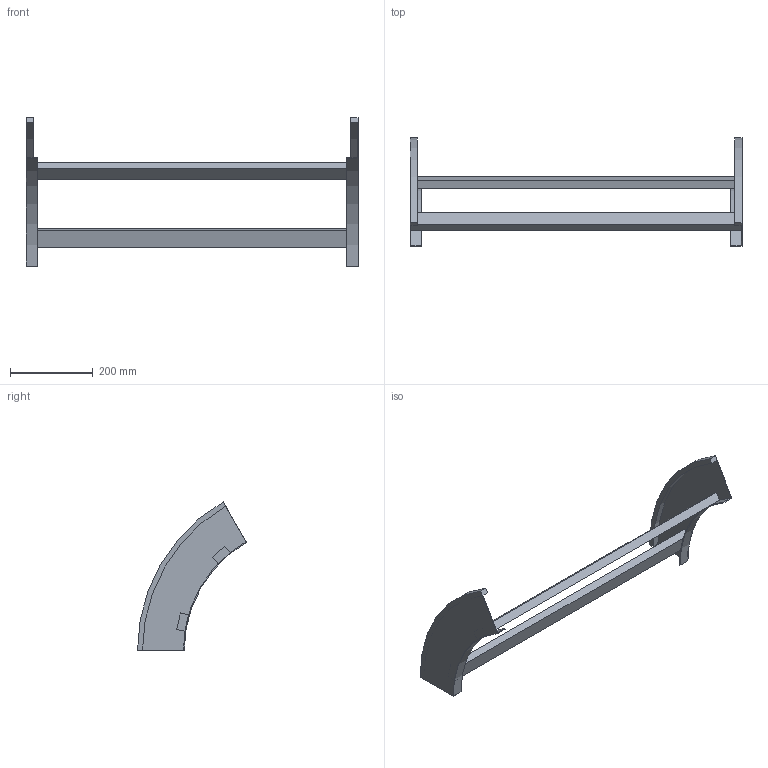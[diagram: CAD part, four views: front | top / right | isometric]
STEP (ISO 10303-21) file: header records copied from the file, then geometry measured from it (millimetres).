
FILE_DESCRIPTION (( 'STEP AP214' ), '1' );
FILE_NAME ('B2_41B3J800.step', '2025-02-21T14:59:08', ( '' ), ( '' ), 'SwSTEP 2.0', 'SolidWorks 2023', '' );
FILE_SCHEMA (( 'AUTOMOTIVE_DESIGN' ));
Length unit declared in the file: millimetre
Products named in the file (3): TRAVERSINO_800; B2_LONGH.DISCESA_60°_H112.5_R300; B2_41B3J800
Assembly tree (4 placements, depth 2):
  B2_41B3J800
    B2_LONGH.DISCESA_60°_H112.5_R300  x2
    TRAVERSINO_800  x2
Bounding box: 800 x 262.5 x 357.24 mm (x, y, z)
Volume: 1652382.9 mm3; surface area: 427367.9 mm2
Topology: 4 solids, 4 shells, 32 faces, 72 edges, 48 vertices
Faces by surface type: plane 24, cylinder 8
Entity records: 552 total; most frequent: DIRECTION 90, CARTESIAN_POINT 83, ORIENTED_EDGE 72, EDGE_CURVE 36, AXIS2_PLACEMENT_3D 31, VECTOR 28, LINE 28, VERTEX_POINT 24
